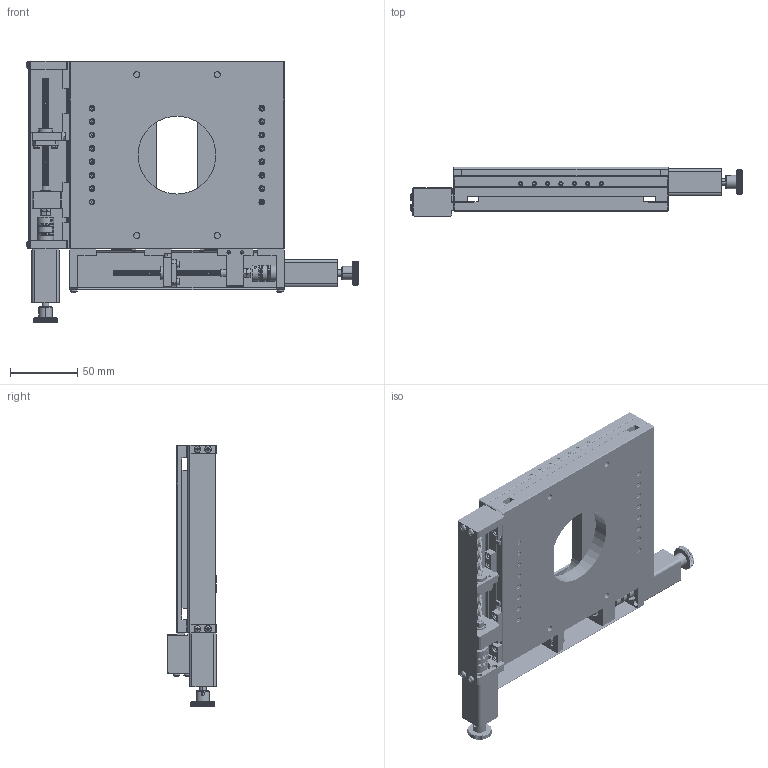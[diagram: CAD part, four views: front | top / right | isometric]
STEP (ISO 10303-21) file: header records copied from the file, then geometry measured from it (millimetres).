
FILE_DESCRIPTION (( 'STEP AP203' ), '1' );
FILE_NAME ('ZT-XWXY050-0邧粣萇雄す痄怢.STEP', '2023-02-03T02:40:48', ( '' ), ( '' ), 'SwSTEP 2.0', 'SolidWorks 2016', '' );
FILE_SCHEMA (( 'CONFIG_CONTROL_DESIGN' ));
Length unit declared in the file: millimetre
Products named in the file (1): ZT-XWXY050-0邧粣萇雄す痄怢
Bounding box: 247.57 x 37 x 195 mm (x, y, z)
Surface area: 197977.6 mm2 (no closed solid volume)
Topology: 0 solids, 154 shells, 2354 faces, 7682 edges, 5322 vertices
Faces by surface type: plane 1087, cylinder 775, cone 351, torus 113, sphere 26, bspline 2
Entity records: 107081 total; most frequent: CARTESIAN_POINT 43070, DIRECTION 12889, ORIENTED_EDGE 12500, EDGE_CURVE 7600, VERTEX_POINT 5300, AXIS2_PLACEMENT_3D 4612, LINE 3665, VECTOR 3665
